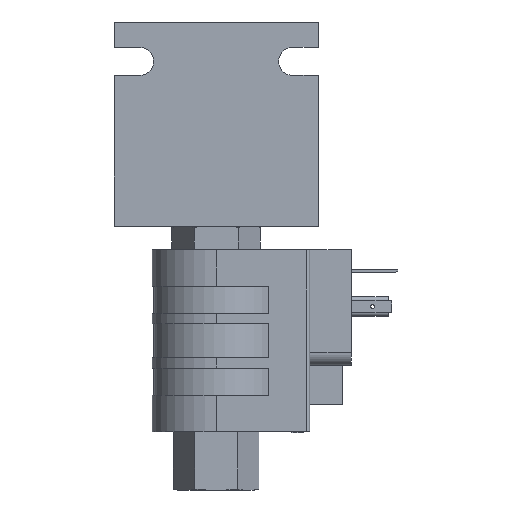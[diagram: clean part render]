
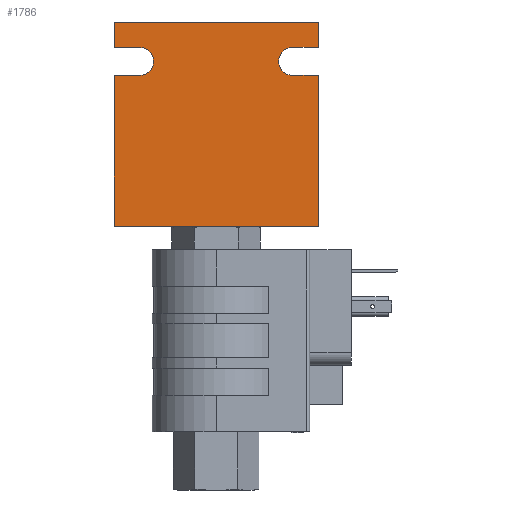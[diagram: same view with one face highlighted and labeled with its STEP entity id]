
A CAD part, front view. The second image highlights one B-rep face of the part: STEP entity #1786.
In plain terms, the highlighted planar face has unit normal (0, -1, 0).
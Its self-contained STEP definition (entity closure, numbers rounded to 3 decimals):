
#1786 = ADVANCED_FACE( '', ( #3490 ), #3491, .T. );
#3490 = FACE_OUTER_BOUND( '', #5162, .T. );
#3491 = PLANE( '', #5163 );
#5162 = EDGE_LOOP( '', ( #9052, #9053, #9054, #9055, #9056, #9057, #9058, #9059, #9060, #9061, #9062, #9063 ) );
#5163 = AXIS2_PLACEMENT_3D( '', #9064, #9065, #9066 );
#9052 = ORIENTED_EDGE( '', *, *, #11091, .T. );
#9053 = ORIENTED_EDGE( '', *, *, #10330, .T. );
#9054 = ORIENTED_EDGE( '', *, *, #11092, .F. );
#9055 = ORIENTED_EDGE( '', *, *, #11080, .T. );
#9056 = ORIENTED_EDGE( '', *, *, #11093, .T. );
#9057 = ORIENTED_EDGE( '', *, *, #10648, .T. );
#9058 = ORIENTED_EDGE( '', *, *, #10923, .T. );
#9059 = ORIENTED_EDGE( '', *, *, #10073, .T. );
#9060 = ORIENTED_EDGE( '', *, *, #10932, .T. );
#9061 = ORIENTED_EDGE( '', *, *, #10585, .F. );
#9062 = ORIENTED_EDGE( '', *, *, #10843, .F. );
#9063 = ORIENTED_EDGE( '', *, *, #10606, .T. );
#9064 = CARTESIAN_POINT( '', ( 25.4, -15.875, 50.8 ) );
#9065 = DIRECTION( '', ( 0., -1., 0. ) );
#9066 = DIRECTION( '', ( 1., 0., 0. ) );
#10073 = EDGE_CURVE( '', #12045, #12050, #12052, .T. );
#10330 = EDGE_CURVE( '', #12456, #12458, #12460, .T. );
#10585 = EDGE_CURVE( '', #12832, #12834, #12835, .T. );
#10606 = EDGE_CURVE( '', #12862, #12864, #12866, .T. );
#10648 = EDGE_CURVE( '', #12922, #12924, #12926, .T. );
#10843 = EDGE_CURVE( '', #12862, #12832, #13183, .T. );
#10923 = EDGE_CURVE( '', #12924, #12045, #13280, .F. );
#10932 = EDGE_CURVE( '', #12050, #12834, #13291, .T. );
#11080 = EDGE_CURVE( '', #13453, #13455, #13457, .T. );
#11091 = EDGE_CURVE( '', #12864, #12456, #13469, .F. );
#11092 = EDGE_CURVE( '', #13453, #12458, #13470, .T. );
#11093 = EDGE_CURVE( '', #13455, #12922, #13471, .T. );
#12045 = VERTEX_POINT( '', #15054 );
#12050 = VERTEX_POINT( '', #15061 );
#12052 = LINE( '', #15064, #15065 );
#12456 = VERTEX_POINT( '', #15642 );
#12458 = VERTEX_POINT( '', #15645 );
#12460 = LINE( '', #15648, #15649 );
#12832 = VERTEX_POINT( '', #16258 );
#12834 = VERTEX_POINT( '', #16261 );
#12835 = LINE( '', #16262, #16263 );
#12862 = VERTEX_POINT( '', #16297 );
#12864 = VERTEX_POINT( '', #16300 );
#12866 = LINE( '', #16303, #16304 );
#12922 = VERTEX_POINT( '', #16400 );
#12924 = VERTEX_POINT( '', #16403 );
#12926 = LINE( '', #16406, #16407 );
#13183 = LINE( '', #16871, #16872 );
#13280 = CIRCLE( '', #17004, 3.5 );
#13291 = LINE( '', #17035, #17036 );
#13453 = VERTEX_POINT( '', #17266 );
#13455 = VERTEX_POINT( '', #17269 );
#13457 = LINE( '', #17272, #17273 );
#13469 = CIRCLE( '', #17289, 3.5 );
#13470 = LINE( '', #17290, #17291 );
#13471 = LINE( '', #17292, #17293 );
#15054 = CARTESIAN_POINT( '', ( -19.05, -15.875, 37.5 ) );
#15061 = CARTESIAN_POINT( '', ( -25.4, -15.875, 37.5 ) );
#15064 = CARTESIAN_POINT( '', ( 25.4, -15.875, 37.5 ) );
#15065 = VECTOR( '', #17874, 1000. );
#15642 = CARTESIAN_POINT( '', ( 19.05, -15.875, 44.5 ) );
#15645 = CARTESIAN_POINT( '', ( 25.4, -15.875, 44.5 ) );
#15648 = CARTESIAN_POINT( '', ( 25.4, -15.875, 44.5 ) );
#15649 = VECTOR( '', #18100, 1000. );
#16258 = CARTESIAN_POINT( '', ( 25.4, -15.875, 0. ) );
#16261 = CARTESIAN_POINT( '', ( -25.4, -15.875, 0. ) );
#16262 = CARTESIAN_POINT( '', ( 25.4, -15.875, 0. ) );
#16263 = VECTOR( '', #18338, 1000. );
#16297 = CARTESIAN_POINT( '', ( 25.4, -15.875, 37.5 ) );
#16300 = CARTESIAN_POINT( '', ( 19.05, -15.875, 37.5 ) );
#16303 = CARTESIAN_POINT( '', ( 25.4, -15.875, 37.5 ) );
#16304 = VECTOR( '', #18361, 1000. );
#16400 = CARTESIAN_POINT( '', ( -25.4, -15.875, 44.5 ) );
#16403 = CARTESIAN_POINT( '', ( -19.05, -15.875, 44.5 ) );
#16406 = CARTESIAN_POINT( '', ( 25.4, -15.875, 44.5 ) );
#16407 = VECTOR( '', #18393, 1000. );
#16871 = CARTESIAN_POINT( '', ( 25.4, -15.875, 50.8 ) );
#16872 = VECTOR( '', #18535, 1000. );
#17004 = AXIS2_PLACEMENT_3D( '', #18617, #18618, #18619 );
#17035 = CARTESIAN_POINT( '', ( -25.4, -15.875, 50.8 ) );
#17036 = VECTOR( '', #18625, 1000. );
#17266 = CARTESIAN_POINT( '', ( 25.4, -15.875, 50.8 ) );
#17269 = CARTESIAN_POINT( '', ( -25.4, -15.875, 50.8 ) );
#17272 = CARTESIAN_POINT( '', ( 25.4, -15.875, 50.8 ) );
#17273 = VECTOR( '', #18722, 1000. );
#17289 = AXIS2_PLACEMENT_3D( '', #18726, #18727, #18728 );
#17290 = CARTESIAN_POINT( '', ( 25.4, -15.875, 50.8 ) );
#17291 = VECTOR( '', #18729, 1000. );
#17292 = CARTESIAN_POINT( '', ( -25.4, -15.875, 50.8 ) );
#17293 = VECTOR( '', #18730, 1000. );
#17874 = DIRECTION( '', ( -1., 0., 0. ) );
#18100 = DIRECTION( '', ( 1., 0., 0. ) );
#18338 = DIRECTION( '', ( -1., 0., 0. ) );
#18361 = DIRECTION( '', ( -1., 0., 0. ) );
#18393 = DIRECTION( '', ( 1., 0., 0. ) );
#18535 = DIRECTION( '', ( 0., 0., -1. ) );
#18617 = CARTESIAN_POINT( '', ( -19.05, -15.875, 41. ) );
#18618 = DIRECTION( '', ( 0., -1., 0. ) );
#18619 = DIRECTION( '', ( 1., 0., 0. ) );
#18625 = DIRECTION( '', ( 0., 0., -1. ) );
#18722 = DIRECTION( '', ( -1., 0., 0. ) );
#18726 = CARTESIAN_POINT( '', ( 19.05, -15.875, 41. ) );
#18727 = DIRECTION( '', ( 0., -1., 0. ) );
#18728 = DIRECTION( '', ( 1., 0., 0. ) );
#18729 = DIRECTION( '', ( 0., 0., -1. ) );
#18730 = DIRECTION( '', ( 0., 0., -1. ) );
